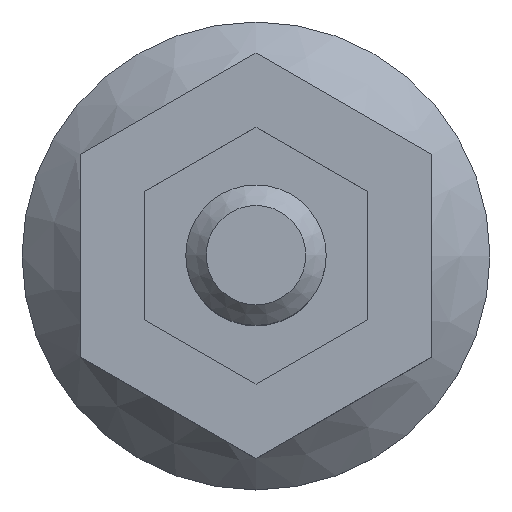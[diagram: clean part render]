
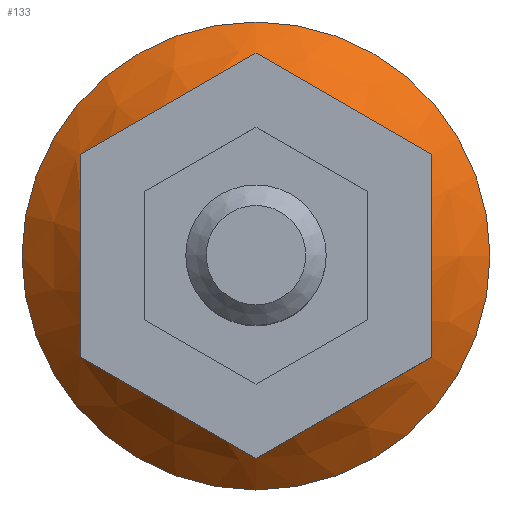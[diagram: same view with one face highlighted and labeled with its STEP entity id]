
A CAD part, top view. The second image highlights one B-rep face of the part: STEP entity #133.
In plain terms, the highlighted conical face has half-angle 45 degrees and reference radius 13.5 mm.
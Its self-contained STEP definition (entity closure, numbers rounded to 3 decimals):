
#27=CARTESIAN_POINT('',(20.,0.,2.));
#28=VERTEX_POINT('',#27);
#35=CARTESIAN_POINT('',(0.,0.,2.));
#36=DIRECTION('',(1.,-0.,-0.));
#37=DIRECTION('',(0.,-0.,1.));
#38=AXIS2_PLACEMENT_3D('',#35,#37,#36);
#39=CIRCLE('',#38,20.);
#40=EDGE_CURVE('',#28,#28,#39,.T.);
#62=CARTESIAN_POINT('',(0.,0.,8.5));
#63=DIRECTION('',(1.,0.,0.));
#64=DIRECTION('',(0.,0.,-1.));
#65=AXIS2_PLACEMENT_3D('',#62,#64,#63);
#66=CONICAL_SURFACE('',#65,13.5,0.785);
#67=CARTESIAN_POINT('',(15.,0.,7.));
#68=VERTEX_POINT('',#67);
#69=CARTESIAN_POINT('',(20.,0.,2.));
#70=DIRECTION('',(-0.707,0.,0.707));
#71=VECTOR('',#70,7.071);
#72=LINE('',#69,#71);
#73=EDGE_CURVE('',#28,#68,#72,.T.);
#74=ORIENTED_EDGE('E2',*,*,#73,.T.);
#75=CARTESIAN_POINT('',(15.,8.66,4.679));
#76=VERTEX_POINT('',#75);
#77=CARTESIAN_POINT('',(15.,0.,7.));
#78=CARTESIAN_POINT('',(15.,4.019,7.));
#79=CARTESIAN_POINT('',(15.,8.66,4.679));
#80=(BOUNDED_CURVE()B_SPLINE_CURVE(2,(#77,#78,#79),.HYPERBOLIC_ARC.,.F.,.U.)B_SPLINE_CURVE_WITH_KNOTS((3,3),(0.,1.),.UNSPECIFIED.)CURVE()GEOMETRIC_REPRESENTATION_ITEM()RATIONAL_B_SPLINE_CURVE((1.167,1.167,1.083))REPRESENTATION_ITEM(''));
#81=EDGE_CURVE('',#68,#76,#80,.T.);
#82=ORIENTED_EDGE('E23',*,*,#81,.T.);
#83=CARTESIAN_POINT('',(0.,17.321,4.679));
#84=VERTEX_POINT('',#83);
#85=CARTESIAN_POINT('',(15.,8.66,4.679));
#86=CARTESIAN_POINT('',(7.5,12.99,9.01));
#87=CARTESIAN_POINT('',(0.,17.321,4.679));
#88=(BOUNDED_CURVE()B_SPLINE_CURVE(2,(#85,#86,#87),.HYPERBOLIC_ARC.,.F.,.U.)B_SPLINE_CURVE_WITH_KNOTS((3,3),(0.,1.),.UNSPECIFIED.)CURVE()GEOMETRIC_REPRESENTATION_ITEM()RATIONAL_B_SPLINE_CURVE((1.083,1.25,1.083))REPRESENTATION_ITEM(''));
#89=EDGE_CURVE('',#76,#84,#88,.T.);
#90=ORIENTED_EDGE('E21',*,*,#89,.T.);
#91=CARTESIAN_POINT('',(-15.,8.66,4.679));
#92=VERTEX_POINT('',#91);
#93=CARTESIAN_POINT('',(0.,17.321,4.679));
#94=CARTESIAN_POINT('',(-7.5,12.99,9.01));
#95=CARTESIAN_POINT('',(-15.,8.66,4.679));
#96=(BOUNDED_CURVE()B_SPLINE_CURVE(2,(#93,#94,#95),.HYPERBOLIC_ARC.,.F.,.U.)B_SPLINE_CURVE_WITH_KNOTS((3,3),(0.,1.),.UNSPECIFIED.)CURVE()GEOMETRIC_REPRESENTATION_ITEM()RATIONAL_B_SPLINE_CURVE((1.083,1.25,1.083))REPRESENTATION_ITEM(''));
#97=EDGE_CURVE('',#84,#92,#96,.T.);
#98=ORIENTED_EDGE('E20',*,*,#97,.T.);
#99=CARTESIAN_POINT('',(-15.,-8.66,4.679));
#100=VERTEX_POINT('',#99);
#101=CARTESIAN_POINT('',(-15.,8.66,4.679));
#102=CARTESIAN_POINT('',(-15.,0.,9.01));
#103=CARTESIAN_POINT('',(-15.,-8.66,4.679));
#104=(BOUNDED_CURVE()B_SPLINE_CURVE(2,(#101,#102,#103),.HYPERBOLIC_ARC.,.F.,.U.)B_SPLINE_CURVE_WITH_KNOTS((3,3),(0.,1.),.UNSPECIFIED.)CURVE()GEOMETRIC_REPRESENTATION_ITEM()RATIONAL_B_SPLINE_CURVE((1.083,1.25,1.083))REPRESENTATION_ITEM(''));
#105=EDGE_CURVE('',#92,#100,#104,.T.);
#106=ORIENTED_EDGE('E19',*,*,#105,.T.);
#107=CARTESIAN_POINT('',(0.,-17.321,4.679));
#108=VERTEX_POINT('',#107);
#109=CARTESIAN_POINT('',(-15.,-8.66,4.679));
#110=CARTESIAN_POINT('',(-7.5,-12.99,9.01));
#111=CARTESIAN_POINT('',(0.,-17.321,4.679));
#112=(BOUNDED_CURVE()B_SPLINE_CURVE(2,(#109,#110,#111),.HYPERBOLIC_ARC.,.F.,.U.)B_SPLINE_CURVE_WITH_KNOTS((3,3),(0.,1.),.UNSPECIFIED.)CURVE()GEOMETRIC_REPRESENTATION_ITEM()RATIONAL_B_SPLINE_CURVE((1.083,1.25,1.083))REPRESENTATION_ITEM(''));
#113=EDGE_CURVE('',#100,#108,#112,.T.);
#114=ORIENTED_EDGE('E18',*,*,#113,.T.);
#115=CARTESIAN_POINT('',(15.,-8.66,4.679));
#116=VERTEX_POINT('',#115);
#117=CARTESIAN_POINT('',(0.,-17.321,4.679));
#118=CARTESIAN_POINT('',(7.5,-12.99,9.01));
#119=CARTESIAN_POINT('',(15.,-8.66,4.679));
#120=(BOUNDED_CURVE()B_SPLINE_CURVE(2,(#117,#118,#119),.HYPERBOLIC_ARC.,.F.,.U.)B_SPLINE_CURVE_WITH_KNOTS((3,3),(0.,1.),.UNSPECIFIED.)CURVE()GEOMETRIC_REPRESENTATION_ITEM()RATIONAL_B_SPLINE_CURVE((1.083,1.25,1.083))REPRESENTATION_ITEM(''));
#121=EDGE_CURVE('',#108,#116,#120,.T.);
#122=ORIENTED_EDGE('E24',*,*,#121,.T.);
#123=CARTESIAN_POINT('',(15.,-8.66,4.679));
#124=CARTESIAN_POINT('',(15.,-4.019,7.));
#125=CARTESIAN_POINT('',(15.,0.,7.));
#126=(BOUNDED_CURVE()B_SPLINE_CURVE(2,(#123,#124,#125),.HYPERBOLIC_ARC.,.F.,.U.)B_SPLINE_CURVE_WITH_KNOTS((3,3),(0.,1.),.UNSPECIFIED.)CURVE()GEOMETRIC_REPRESENTATION_ITEM()RATIONAL_B_SPLINE_CURVE((1.083,1.167,1.167))REPRESENTATION_ITEM(''));
#127=EDGE_CURVE('',#116,#68,#126,.T.);
#128=ORIENTED_EDGE('E22',*,*,#127,.T.);
#129=ORIENTED_EDGE('E22',*,*,#73,.F.);
#130=ORIENTED_EDGE('E22',*,*,#40,.F.);
#131=EDGE_LOOP('',(#74,#82,#90,#98,#106,#114,#122,#128,#129,#130));
#132=FACE_OUTER_BOUND('',#131,.F.);
#133=ADVANCED_FACE('F3',(#132),#66,.T.);
